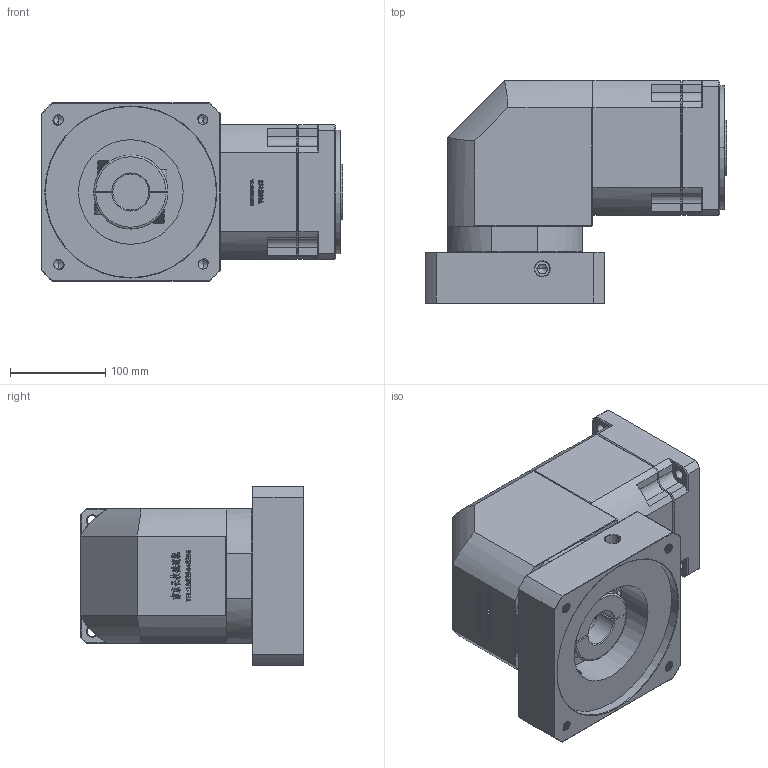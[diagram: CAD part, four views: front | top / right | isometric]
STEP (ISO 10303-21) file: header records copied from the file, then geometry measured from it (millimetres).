
FILE_DESCRIPTION (( 'STEP AP214' ), '1' );
FILE_NAME ('ZBR142A-K35-L2-38-180-215-M12.step', '2023-03-18T09:27:25', ( '' ), ( '' ), 'SwSTEP 2.0', 'SolidWorks 2016', '' );
FILE_SCHEMA (( 'AUTOMOTIVE_DESIGN' ));
Length unit declared in the file: millimetre
Products named in the file (1): ZBR142A-K35-L2-38-180-215-M12
Bounding box: 316.7 x 235 x 188 mm (x, y, z)
Volume: 6733476 mm3; surface area: 455459.7 mm2
Topology: 6 solids, 6 shells, 2833 faces, 7545 edges, 4860 vertices
Faces by surface type: plane 1533, bspline 585, cylinder 377, cone 318, torus 20
Entity records: 155316 total; most frequent: CARTESIAN_POINT 58053, ORIENTED_EDGE 15034, DIRECTION 11383, EDGE_CURVE 7517, LINE 5147, VECTOR 5147, VERTEX_POINT 4860, AXIS2_PLACEMENT_3D 3118
